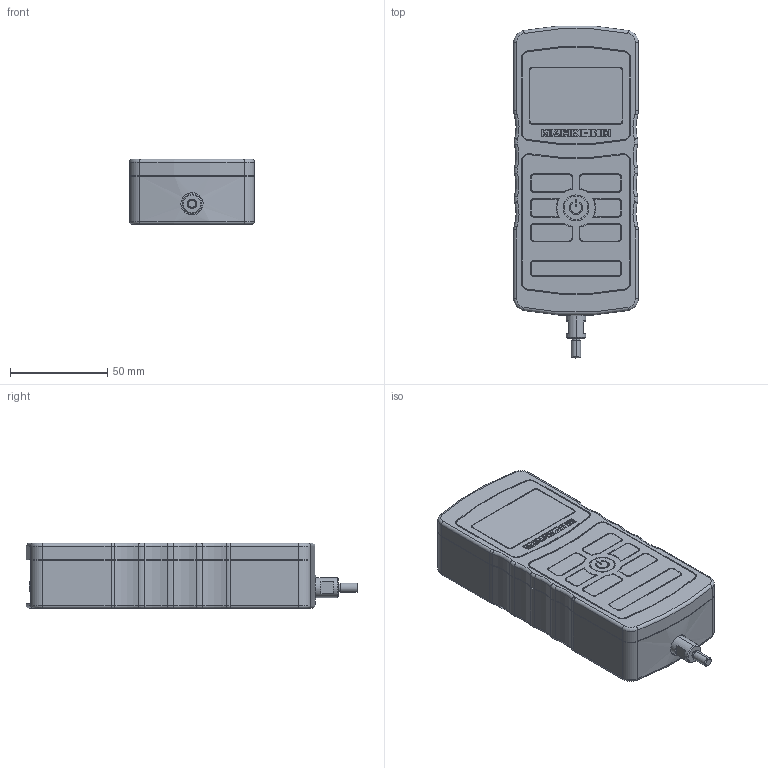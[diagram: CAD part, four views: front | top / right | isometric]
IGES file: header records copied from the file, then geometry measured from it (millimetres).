
Global section: file name: No Iges File Name specified; native system: Autodesk Inventor 2010; preprocessor: AutoDesk Inventor Iges Exporter R2010; author: mlampen; date: 20121129.174057; units: inch
Bounding box: 64.26 x 170.93 x 33.84 mm (x, y, z)
Volume: 306028.3 mm3; surface area: 22124.7 mm2
Topology: 4 solids, 4 shells, 816 faces, 2040 edges, 1316 vertices
Faces by surface type: plane 348, revolution 182, cylinder 149, bspline 75, torus 52, cone 6, sphere 4
